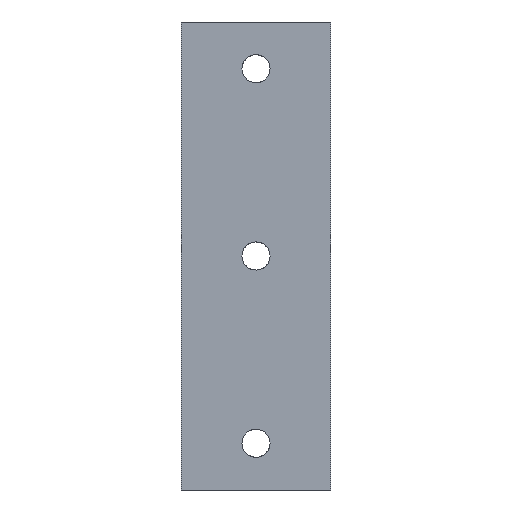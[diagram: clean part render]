
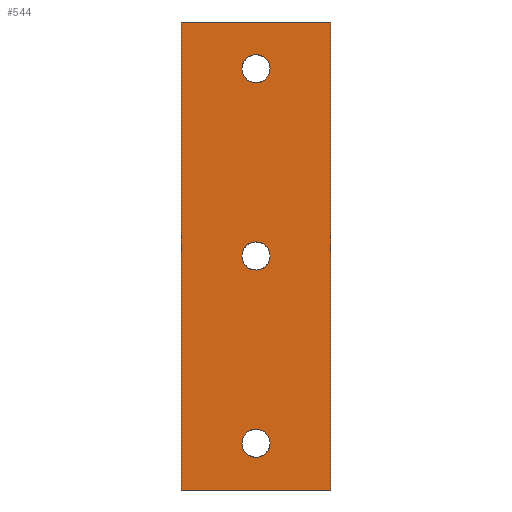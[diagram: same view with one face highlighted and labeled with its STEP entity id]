
A CAD part, front view. The second image highlights one B-rep face of the part: STEP entity #544.
In plain terms, the highlighted face is a extrusion surface.
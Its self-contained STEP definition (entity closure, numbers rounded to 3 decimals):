
#397=CARTESIAN_POINT('Control Point',(-48.,0.,0.)) ;
#398=CARTESIAN_POINT('Control Point',(-48.,0.,-150.)) ;
#402=CARTESIAN_POINT('Line Origine',(-24.,0.,-150.)) ;
#406=CARTESIAN_POINT('Vertex',(-48.,0.,-150.)) ;
#408=CARTESIAN_POINT('Vertex',(0.,0.,-150.)) ;
#411=CARTESIAN_POINT('Line Origine',(0.,0.,-75.)) ;
#415=CARTESIAN_POINT('Vertex',(0.,0.,0.)) ;
#418=CARTESIAN_POINT('Line Origine',(-24.,0.,0.)) ;
#422=CARTESIAN_POINT('Vertex',(-48.,0.,0.)) ;
#425=CARTESIAN_POINT('Line Origine',(-48.,0.,-75.)) ;
#437=CARTESIAN_POINT('Control Point',(-19.5,0.,-75.)) ;
#438=CARTESIAN_POINT('Control Point',(-19.5,0.,-76.247)) ;
#439=CARTESIAN_POINT('Control Point',(-19.932,0.,-77.494)) ;
#440=CARTESIAN_POINT('Control Point',(-20.8,0.,-78.539)) ;
#441=CARTESIAN_POINT('Control Point',(-22.71,0.,-79.63)) ;
#442=CARTESIAN_POINT('Control Point',(-24.841,0.,-79.54)) ;
#443=CARTESIAN_POINT('Control Point',(-25.671,0.,-79.305)) ;
#444=CARTESIAN_POINT('Control Point',(-27.085,0.,-78.511)) ;
#445=CARTESIAN_POINT('Control Point',(-28.032,0.,-77.204)) ;
#446=CARTESIAN_POINT('Control Point',(-28.344,0.,-76.498)) ;
#447=CARTESIAN_POINT('Control Point',(-28.5,0.,-75.749)) ;
#448=CARTESIAN_POINT('Control Point',(-28.5,0.,-75.)) ;
#449=CARTESIAN_POINT('Vertex',(-19.5,0.,-75.)) ;
#451=CARTESIAN_POINT('Vertex',(-28.5,0.,-75.)) ;
#455=CARTESIAN_POINT('Control Point',(-28.5,0.,-75.)) ;
#456=CARTESIAN_POINT('Control Point',(-28.5,0.,-73.753)) ;
#457=CARTESIAN_POINT('Control Point',(-28.068,0.,-72.506)) ;
#458=CARTESIAN_POINT('Control Point',(-27.2,0.,-71.461)) ;
#459=CARTESIAN_POINT('Control Point',(-25.29,0.,-70.37)) ;
#460=CARTESIAN_POINT('Control Point',(-23.159,0.,-70.46)) ;
#461=CARTESIAN_POINT('Control Point',(-22.329,0.,-70.695)) ;
#462=CARTESIAN_POINT('Control Point',(-20.915,0.,-71.489)) ;
#463=CARTESIAN_POINT('Control Point',(-19.968,0.,-72.796)) ;
#464=CARTESIAN_POINT('Control Point',(-19.656,0.,-73.502)) ;
#465=CARTESIAN_POINT('Control Point',(-19.5,0.,-74.251)) ;
#466=CARTESIAN_POINT('Control Point',(-19.5,0.,-75.)) ;
#473=CARTESIAN_POINT('Control Point',(-19.5,0.,-135.)) ;
#474=CARTESIAN_POINT('Control Point',(-19.5,0.,-136.247)) ;
#475=CARTESIAN_POINT('Control Point',(-19.932,0.,-137.494)) ;
#476=CARTESIAN_POINT('Control Point',(-20.8,0.,-138.539)) ;
#477=CARTESIAN_POINT('Control Point',(-22.71,0.,-139.63)) ;
#478=CARTESIAN_POINT('Control Point',(-24.841,0.,-139.54)) ;
#479=CARTESIAN_POINT('Control Point',(-25.671,0.,-139.305)) ;
#480=CARTESIAN_POINT('Control Point',(-27.085,0.,-138.511)) ;
#481=CARTESIAN_POINT('Control Point',(-28.032,0.,-137.204)) ;
#482=CARTESIAN_POINT('Control Point',(-28.344,0.,-136.498)) ;
#483=CARTESIAN_POINT('Control Point',(-28.5,0.,-135.749)) ;
#484=CARTESIAN_POINT('Control Point',(-28.5,0.,-135.)) ;
#485=CARTESIAN_POINT('Vertex',(-19.5,0.,-135.)) ;
#487=CARTESIAN_POINT('Vertex',(-28.5,0.,-135.)) ;
#491=CARTESIAN_POINT('Control Point',(-28.5,0.,-135.)) ;
#492=CARTESIAN_POINT('Control Point',(-28.5,0.,-133.753)) ;
#493=CARTESIAN_POINT('Control Point',(-28.068,0.,-132.506)) ;
#494=CARTESIAN_POINT('Control Point',(-27.2,0.,-131.461)) ;
#495=CARTESIAN_POINT('Control Point',(-25.29,0.,-130.37)) ;
#496=CARTESIAN_POINT('Control Point',(-23.159,0.,-130.46)) ;
#497=CARTESIAN_POINT('Control Point',(-22.329,0.,-130.695)) ;
#498=CARTESIAN_POINT('Control Point',(-20.915,0.,-131.489)) ;
#499=CARTESIAN_POINT('Control Point',(-19.968,0.,-132.796)) ;
#500=CARTESIAN_POINT('Control Point',(-19.656,0.,-133.502)) ;
#501=CARTESIAN_POINT('Control Point',(-19.5,0.,-134.251)) ;
#502=CARTESIAN_POINT('Control Point',(-19.5,0.,-135.)) ;
#509=CARTESIAN_POINT('Control Point',(-19.5,0.,-15.)) ;
#510=CARTESIAN_POINT('Control Point',(-19.5,0.,-16.247)) ;
#511=CARTESIAN_POINT('Control Point',(-19.932,0.,-17.494)) ;
#512=CARTESIAN_POINT('Control Point',(-20.8,0.,-18.539)) ;
#513=CARTESIAN_POINT('Control Point',(-22.71,0.,-19.63)) ;
#514=CARTESIAN_POINT('Control Point',(-24.841,0.,-19.54)) ;
#515=CARTESIAN_POINT('Control Point',(-25.671,0.,-19.305)) ;
#516=CARTESIAN_POINT('Control Point',(-27.085,0.,-18.511)) ;
#517=CARTESIAN_POINT('Control Point',(-28.032,0.,-17.204)) ;
#518=CARTESIAN_POINT('Control Point',(-28.344,0.,-16.498)) ;
#519=CARTESIAN_POINT('Control Point',(-28.5,0.,-15.749)) ;
#520=CARTESIAN_POINT('Control Point',(-28.5,0.,-15.)) ;
#521=CARTESIAN_POINT('Vertex',(-19.5,0.,-15.)) ;
#523=CARTESIAN_POINT('Vertex',(-28.5,0.,-15.)) ;
#527=CARTESIAN_POINT('Control Point',(-28.5,0.,-15.)) ;
#528=CARTESIAN_POINT('Control Point',(-28.5,0.,-13.753)) ;
#529=CARTESIAN_POINT('Control Point',(-28.068,0.,-12.506)) ;
#530=CARTESIAN_POINT('Control Point',(-27.2,0.,-11.461)) ;
#531=CARTESIAN_POINT('Control Point',(-25.29,0.,-10.37)) ;
#532=CARTESIAN_POINT('Control Point',(-23.159,0.,-10.46)) ;
#533=CARTESIAN_POINT('Control Point',(-22.329,0.,-10.695)) ;
#534=CARTESIAN_POINT('Control Point',(-20.915,0.,-11.489)) ;
#535=CARTESIAN_POINT('Control Point',(-19.968,0.,-12.796)) ;
#536=CARTESIAN_POINT('Control Point',(-19.656,0.,-13.502)) ;
#537=CARTESIAN_POINT('Control Point',(-19.5,0.,-14.251)) ;
#538=CARTESIAN_POINT('Control Point',(-19.5,0.,-15.)) ;
#399=DIRECTION('Vector Direction',(1.,0.,0.)) ;
#403=DIRECTION('Vector Direction',(1.,0.,0.)) ;
#412=DIRECTION('Vector Direction',(0.,0.,-1.)) ;
#419=DIRECTION('Vector Direction',(1.,0.,0.)) ;
#426=DIRECTION('Vector Direction',(0.,0.,-1.)) ;
#431=ORIENTED_EDGE('',*,*,#410,.T.) ;
#432=ORIENTED_EDGE('',*,*,#417,.T.) ;
#433=ORIENTED_EDGE('',*,*,#424,.T.) ;
#434=ORIENTED_EDGE('',*,*,#429,.T.) ;
#469=ORIENTED_EDGE('',*,*,#453,.T.) ;
#470=ORIENTED_EDGE('',*,*,#467,.T.) ;
#505=ORIENTED_EDGE('',*,*,#489,.T.) ;
#506=ORIENTED_EDGE('',*,*,#503,.T.) ;
#541=ORIENTED_EDGE('',*,*,#525,.T.) ;
#542=ORIENTED_EDGE('',*,*,#539,.T.) ;
#471=FACE_BOUND('',#468,.T.) ;
#507=FACE_BOUND('',#504,.T.) ;
#543=FACE_BOUND('',#540,.T.) ;
#400=VECTOR('Extrusion Surface Vector',#399,1.) ;
#404=VECTOR('Line Direction',#403,1.) ;
#413=VECTOR('Line Direction',#412,1.) ;
#420=VECTOR('Line Direction',#419,1.) ;
#427=VECTOR('Line Direction',#426,1.) ;
#544=ADVANCED_FACE('Superficie.6',(#435,#471,#507,#543),#401,.T.) ;
#396=B_SPLINE_CURVE_WITH_KNOTS('',1,(#397,#398),.UNSPECIFIED.,.F.,.U.,(2,2),(-75.,75.),.UNSPECIFIED.) ;
#436=B_SPLINE_CURVE_WITH_KNOTS('',5,(#437,#438,#439,#440,#441,#442,#443,#444,#445,#446,#447,#448),.UNSPECIFIED.,.F.,.U.,(6,3,3,6),(0.,8.818,14.697,19.993),.UNSPECIFIED.) ;
#454=B_SPLINE_CURVE_WITH_KNOTS('',5,(#455,#456,#457,#458,#459,#460,#461,#462,#463,#464,#465,#466),.UNSPECIFIED.,.F.,.U.,(6,3,3,6),(0.,8.818,14.697,19.993),.UNSPECIFIED.) ;
#472=B_SPLINE_CURVE_WITH_KNOTS('',5,(#473,#474,#475,#476,#477,#478,#479,#480,#481,#482,#483,#484),.UNSPECIFIED.,.F.,.U.,(6,3,3,6),(0.,8.818,14.697,19.993),.UNSPECIFIED.) ;
#490=B_SPLINE_CURVE_WITH_KNOTS('',5,(#491,#492,#493,#494,#495,#496,#497,#498,#499,#500,#501,#502),.UNSPECIFIED.,.F.,.U.,(6,3,3,6),(0.,8.818,14.697,19.993),.UNSPECIFIED.) ;
#508=B_SPLINE_CURVE_WITH_KNOTS('',5,(#509,#510,#511,#512,#513,#514,#515,#516,#517,#518,#519,#520),.UNSPECIFIED.,.F.,.U.,(6,3,3,6),(0.,8.818,14.697,19.993),.UNSPECIFIED.) ;
#526=B_SPLINE_CURVE_WITH_KNOTS('',5,(#527,#528,#529,#530,#531,#532,#533,#534,#535,#536,#537,#538),.UNSPECIFIED.,.F.,.U.,(6,3,3,6),(0.,8.818,14.697,19.993),.UNSPECIFIED.) ;
#410=EDGE_CURVE('',#407,#409,#405,.T.) ;
#417=EDGE_CURVE('',#409,#416,#414,.F.) ;
#424=EDGE_CURVE('',#416,#423,#421,.F.) ;
#429=EDGE_CURVE('',#423,#407,#428,.T.) ;
#453=EDGE_CURVE('',#450,#452,#436,.T.) ;
#467=EDGE_CURVE('',#452,#450,#454,.T.) ;
#489=EDGE_CURVE('',#486,#488,#472,.T.) ;
#503=EDGE_CURVE('',#488,#486,#490,.T.) ;
#525=EDGE_CURVE('',#522,#524,#508,.T.) ;
#539=EDGE_CURVE('',#524,#522,#526,.T.) ;
#430=EDGE_LOOP('',(#431,#432,#433,#434)) ;
#468=EDGE_LOOP('',(#469,#470)) ;
#504=EDGE_LOOP('',(#505,#506)) ;
#540=EDGE_LOOP('',(#541,#542)) ;
#435=FACE_OUTER_BOUND('',#430,.T.) ;
#405=LINE('Line',#402,#404) ;
#414=LINE('Line',#411,#413) ;
#421=LINE('Line',#418,#420) ;
#428=LINE('Line',#425,#427) ;
#401=SURFACE_OF_LINEAR_EXTRUSION('generated tabulated cylinder',#396,#400) ;
#407=VERTEX_POINT('',#406) ;
#409=VERTEX_POINT('',#408) ;
#416=VERTEX_POINT('',#415) ;
#423=VERTEX_POINT('',#422) ;
#450=VERTEX_POINT('',#449) ;
#452=VERTEX_POINT('',#451) ;
#486=VERTEX_POINT('',#485) ;
#488=VERTEX_POINT('',#487) ;
#522=VERTEX_POINT('',#521) ;
#524=VERTEX_POINT('',#523) ;
